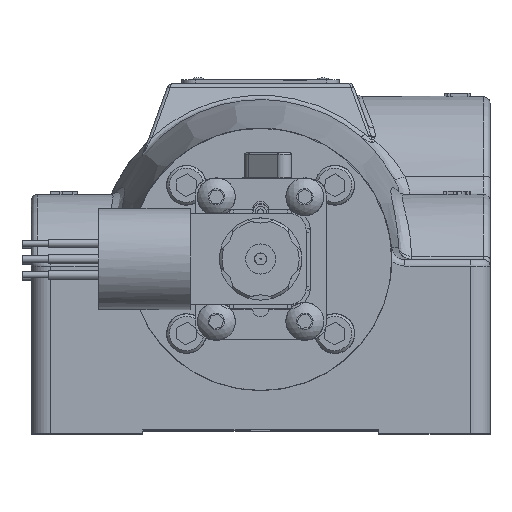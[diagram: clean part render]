
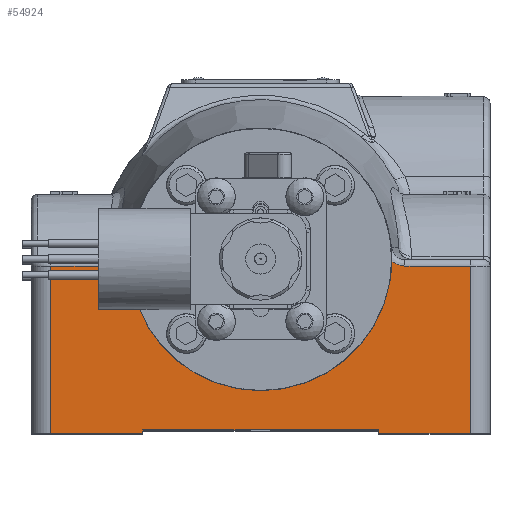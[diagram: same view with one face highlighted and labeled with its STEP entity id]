
A CAD part, top view. The second image highlights one B-rep face of the part: STEP entity #54924.
In plain terms, the highlighted planar face has unit normal (0, 0, 1).
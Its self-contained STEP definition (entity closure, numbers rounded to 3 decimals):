
#1443=B_SPLINE_CURVE_WITH_KNOTS('',3,(#93200,#93201,#93202,#93203,#93204),
 .UNSPECIFIED.,.F.,.F.,(4,1,4),(0.,0.291,0.347),
 .UNSPECIFIED.);
#1451=B_SPLINE_CURVE_WITH_KNOTS('',3,(#93387,#93388,#93389,#93390),
 .UNSPECIFIED.,.F.,.F.,(4,4),(0.356,0.703),
 .UNSPECIFIED.);
#3102=PLANE('',#58915);
#5178=FACE_OUTER_BOUND('',#8509,.T.);
#8509=EDGE_LOOP('',(#39057,#39058,#39059,#39060,#39061,#39062,#39063,#39064,
#39065,#39066,#39067,#39068));
#11836=CIRCLE('',#58786,3.178);
#14449=LINE('',#91823,#17928);
#14515=LINE('',#92966,#17994);
#14520=LINE('',#92979,#17999);
#14523=LINE('',#92983,#18002);
#14524=LINE('',#92985,#18003);
#14536=LINE('',#93037,#18015);
#14542=LINE('',#93094,#18021);
#14544=LINE('',#93268,#18023);
#14552=LINE('',#93514,#18031);
#17928=VECTOR('',#66448,1.);
#17994=VECTOR('',#66700,1.);
#17999=VECTOR('',#66713,1.);
#18002=VECTOR('',#66718,1.);
#18003=VECTOR('',#66721,1.);
#18015=VECTOR('',#66761,1.);
#18021=VECTOR('',#66839,1.);
#18023=VECTOR('',#66847,1.);
#18031=VECTOR('',#66943,1.);
#22116=VERTEX_POINT('',#91807);
#22122=VERTEX_POINT('',#91821);
#22179=VERTEX_POINT('',#92963);
#22180=VERTEX_POINT('',#92965);
#22182=VERTEX_POINT('',#92975);
#22184=VERTEX_POINT('',#92978);
#22201=VERTEX_POINT('',#93036);
#22215=VERTEX_POINT('',#93090);
#22219=VERTEX_POINT('',#93172);
#22224=VERTEX_POINT('',#93261);
#22227=VERTEX_POINT('',#93266);
#22250=VERTEX_POINT('',#93382);
#27819=EDGE_CURVE('',#22116,#22122,#14449,.T.);
#27944=EDGE_CURVE('',#22180,#22179,#14515,.T.);
#27950=EDGE_CURVE('',#22184,#22182,#14520,.T.);
#27953=EDGE_CURVE('',#22122,#22180,#14523,.T.);
#27954=EDGE_CURVE('',#22179,#22184,#14524,.T.);
#27976=EDGE_CURVE('',#22116,#22201,#14536,.T.);
#28005=EDGE_CURVE('',#22201,#22215,#14542,.T.);
#28010=EDGE_CURVE('',#22215,#22219,#1443,.T.);
#28019=EDGE_CURVE('',#22227,#22224,#14544,.T.);
#28056=EDGE_CURVE('',#22250,#22227,#1451,.T.);
#28068=EDGE_CURVE('',#22224,#22182,#14552,.T.);
#28129=EDGE_CURVE('',#22219,#22250,#11836,.T.);
#39057=ORIENTED_EDGE('',*,*,#27950,.T.);
#39058=ORIENTED_EDGE('',*,*,#28068,.F.);
#39059=ORIENTED_EDGE('',*,*,#28019,.F.);
#39060=ORIENTED_EDGE('',*,*,#28056,.F.);
#39061=ORIENTED_EDGE('',*,*,#28129,.F.);
#39062=ORIENTED_EDGE('',*,*,#28010,.F.);
#39063=ORIENTED_EDGE('',*,*,#28005,.F.);
#39064=ORIENTED_EDGE('',*,*,#27976,.F.);
#39065=ORIENTED_EDGE('',*,*,#27819,.T.);
#39066=ORIENTED_EDGE('',*,*,#27953,.T.);
#39067=ORIENTED_EDGE('',*,*,#27944,.T.);
#39068=ORIENTED_EDGE('',*,*,#27954,.T.);
#54924=ADVANCED_FACE('',(#5178),#3102,.T.);
#58786=AXIS2_PLACEMENT_3D('',#94150,#67017,#67018);
#58915=AXIS2_PLACEMENT_3D('',#108905,#67487,#67488);
#66448=DIRECTION('',(1.,0.,0.));
#66700=DIRECTION('',(1.,0.,0.));
#66713=DIRECTION('',(1.,0.,0.));
#66718=DIRECTION('',(0.,1.,0.));
#66721=DIRECTION('',(0.,-1.,0.));
#66761=DIRECTION('',(0.,1.,0.));
#66839=DIRECTION('',(1.,0.,0.));
#66847=DIRECTION('',(1.,0.,0.));
#66943=DIRECTION('',(0.,-1.,0.));
#67017=DIRECTION('center_axis',(0.,0.,1.));
#67018=DIRECTION('ref_axis',(-1.,0.,0.));
#67487=DIRECTION('center_axis',(0.,0.,1.));
#67488=DIRECTION('ref_axis',(1.,0.,0.));
#91807=CARTESIAN_POINT('',(-5.08,-4.207,8.652));
#91821=CARTESIAN_POINT('',(-2.858,-4.207,8.652));
#91823=CARTESIAN_POINT('',(0.,-4.207,8.652));
#92963=CARTESIAN_POINT('',(2.858,-4.128,8.652));
#92965=CARTESIAN_POINT('',(-2.858,-4.128,8.652));
#92966=CARTESIAN_POINT('',(0.,-4.128,8.652));
#92975=CARTESIAN_POINT('',(5.08,-4.207,8.652));
#92978=CARTESIAN_POINT('',(2.858,-4.207,8.652));
#92979=CARTESIAN_POINT('',(0.,-4.207,8.652));
#92983=CARTESIAN_POINT('',(-2.858,-4.247,8.652));
#92985=CARTESIAN_POINT('',(2.858,-4.247,8.652));
#93036=CARTESIAN_POINT('',(-5.08,-0.159,8.652));
#93037=CARTESIAN_POINT('',(-5.08,-3.215,8.652));
#93090=CARTESIAN_POINT('',(-3.497,-0.159,8.652));
#93094=CARTESIAN_POINT('',(0.,-0.159,8.652));
#93172=CARTESIAN_POINT('',(-3.177,-0.037,8.652));
#93200=CARTESIAN_POINT('Ctrl Pts',(-3.497,-0.159,
8.652));
#93201=CARTESIAN_POINT('Ctrl Pts',(-3.4,-0.159,
8.652));
#93202=CARTESIAN_POINT('Ctrl Pts',(-3.283,-0.122,
8.652));
#93203=CARTESIAN_POINT('Ctrl Pts',(-3.192,-0.05,
8.652));
#93204=CARTESIAN_POINT('Ctrl Pts',(-3.178,-0.037,
8.652));
#93261=CARTESIAN_POINT('',(5.08,-0.159,8.652));
#93266=CARTESIAN_POINT('',(3.497,-0.159,8.652));
#93268=CARTESIAN_POINT('',(0.,-0.159,8.652));
#93382=CARTESIAN_POINT('',(3.177,-0.037,8.652));
#93387=CARTESIAN_POINT('Ctrl Pts',(3.178,-0.037,
8.652));
#93388=CARTESIAN_POINT('Ctrl Pts',(3.265,-0.114,
8.652));
#93389=CARTESIAN_POINT('Ctrl Pts',(3.381,-0.159,
8.652));
#93390=CARTESIAN_POINT('Ctrl Pts',(3.497,-0.159,
8.652));
#93514=CARTESIAN_POINT('',(5.08,-3.215,8.652));
#94150=CARTESIAN_POINT('Origin',(0.,0.,8.652));
#108905=CARTESIAN_POINT('Origin',(0.,-4.286,8.652));
